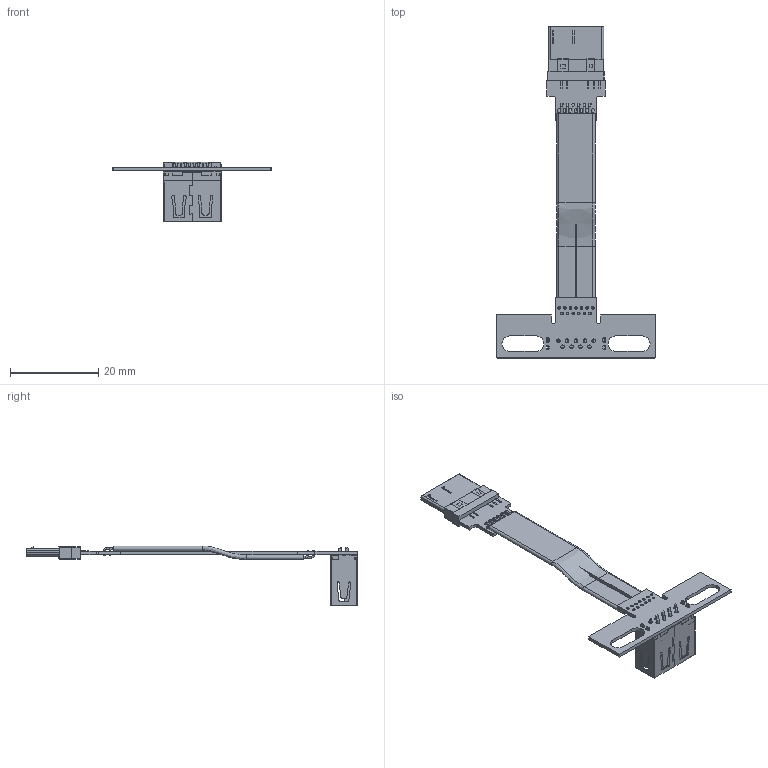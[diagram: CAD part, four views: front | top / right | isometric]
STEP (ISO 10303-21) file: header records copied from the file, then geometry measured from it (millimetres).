
FILE_DESCRIPTION(('Open CASCADE Model'),'2;1');
FILE_NAME('Open CASCADE Shape Model','2022-04-17T15:02:00',('Author'),( 'Open CASCADE'),'Open CASCADE STEP processor 6.8','Open CASCADE 6.8' ,'Unknown');
FILE_SCHEMA(('AUTOMOTIVE_DESIGN { 1 0 10303 214 1 1 1 1 }'));
Length unit declared in the file: millimetre
Products named in the file (53): PCB; Board; Open CASCADE STEP translator 6.8 16.1.1; _1; USB_20211129_(1); Designator22; micro_usb_3.0; Free-Models; cable13-US1A
Assembly tree (52 placements, depth 3):
  PCB
    Board
      Open CASCADE STEP translator 6.8 16.1.1
    _1
      USB_20211129_(1)
      USB_20211129_(1)
      USB_20211129_(1)
      USB_20211129_(1)
      USB_20211129_(1)
      USB_20211129_(1)
      USB_20211129_(1)
      USB_20211129_(1)
      USB_20211129_(1)
      USB_20211129_(1)
      USB_20211129_(1)
      USB_20211129_(1)
      USB_20211129_(1)
      USB_20211129_(1)
      USB_20211129_(1)
      USB_20211129_(1)
      USB_20211129_(1)
      USB_20211129_(1)
      USB_20211129_(1)
    Designator22
      micro_usb_3.0
    Free-Models
      cable13-US1A
      cable13-US1A
      cable13-US1A
      cable13-US1A
      cable13-US1A
      cable13-US1A
      cable13-US1A
      cable13-US1A
      cable13-US1A
      cable13-US1A
      cable13-US1A
      cable13-US1A
      cable13-US1A
      cable13-US1A
      cable13-US1A
      cable13-US1A
      cable13-US1A
      cable13-US1A
      cable13-US1A
      cable13-US1A
      cable13-US1A
      cable13-US1A
      cable13-US1A
      cable13-US1A
      cable13-US1A
      cable13-US1A
      cable13-US1A
Bounding box: 35.78 x 75.12 x 13.52 mm (x, y, z)
Volume: 1357.9 mm3; surface area: 4404.2 mm2
Topology: 48 solids, 48 shells, 1025 faces, 2633 edges, 1725 vertices
Faces by surface type: plane 612, cylinder 348, bspline 33, torus 26, extrusion 6
Full cylindrical faces by diameter (mm): 0.4 x59, 0.55 x13, 0.6 x13, 0.8 x9
Entity records: 41781 total; most frequent: CARTESIAN_POINT 7061, DIRECTION 5342, ORIENTED_EDGE 5266, EDGE_CURVE 2633, AXIS2_PLACEMENT_3D 1783, VECTOR 1776, LINE 1770, VERTEX_POINT 1725
